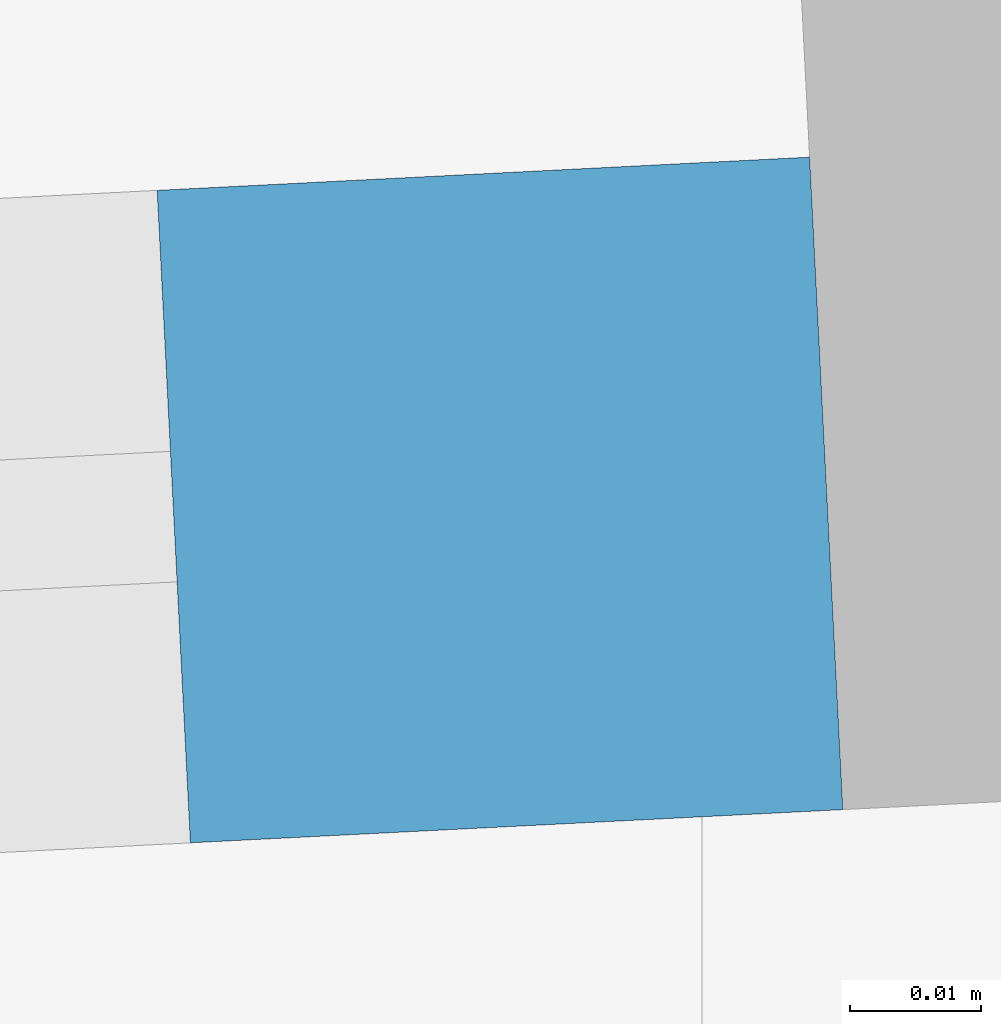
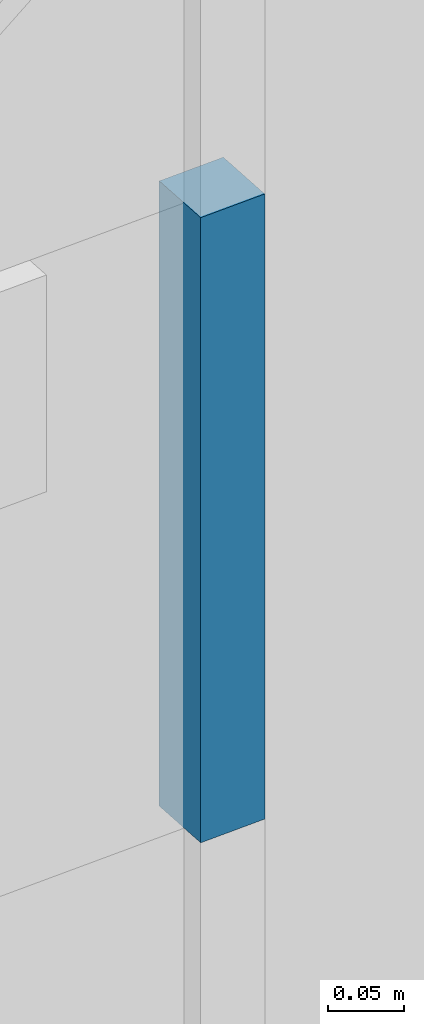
# One storey, part 6 of 43: 1 member, 1 element without a shape of its own.
"""IFC2X3 building model written with IfcOpenShell, lengths in metres."""

from ifc_helpers import new_model, entity, si_unit, converted_unit, derived_unit, direction, frame, origin, origin_2d_with_axis, place, context, subcontext, project, spatial, rectangle, extrude, source, transform, mapped, material, type_object, type_shapes, element, aggregate, save


model = new_model("IFC2X3")

# Units and contexts
model_context = context("Model", 3, precision=1e-05, world=origin(), true_north=direction((6.123233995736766e-17, 1.0)))
body_context = subcontext(model_context, "Body", "Model", "MODEL_VIEW")
ifc_project = project(units=[si_unit("LENGTHUNIT", "METRE"), si_unit("AREAUNIT", "SQUARE_METRE"), converted_unit("PLANEANGLEUNIT", "DEGREE", entity("IfcPlaneAngleMeasure", 0.017453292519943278), si_unit("PLANEANGLEUNIT", "RADIAN"), dimensions=[0, 0, 0, 0, 0, 0, 0]), derived_unit("THERMALTRANSMITTANCEUNIT", [(si_unit("MASSUNIT", "GRAM", prefix="KILO"), 1), (si_unit("THERMODYNAMICTEMPERATUREUNIT", "KELVIN"), -1), (si_unit("TIMEUNIT", "SECOND"), -3)])], contexts=[model_context])

# Site, building, storey
site_placement = place(None, frame((1253.6752467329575, 2072.143113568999, 91.49999999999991), z_axis=(0.0, 0.0, 1.0), x_axis=(0.7237211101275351, 0.6900925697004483, 0.0)))
site = spatial("IfcSite", under=ifc_project, at=site_placement, Name="Surface", CompositionType="ELEMENT")
building_placement = place(site_placement, origin())
building = spatial("IfcBuilding", under=site, at=building_placement, CompositionType="ELEMENT")
storey_placement = place(building_placement, frame((0.0, 0.0, -4.629999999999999)))
storey = spatial("IfcBuildingStorey", under=building, at=storey_placement, Name="rez de rue -1.10m", CompositionType="ELEMENT", Elevation=-4.629999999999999)

# Curtain wall, member
curtain_wall_type = type_object("IfcCurtainWallType", Name="Mur-rideau:Menuiserie Int", PredefinedType="NOTDEFINED")
curtain_wall_placement = place(storey_placement, frame((0.0, 0.0, 4.629999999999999)))
curtain_wall = element("IfcCurtainWall", 1, at=curtain_wall_placement, inside=storey, type_object=curtain_wall_type, Name="Mur-rideau:Menuiserie Int", ObjectType="Mur-rideau:Menuiserie Int")
ifc_material = material(Name="OMD_Bois Men Int")
member_type = type_object("IfcMemberType", Name="Meneau rectangulaire:50x50 Int", PredefinedType="MULLION", material=ifc_material)
shared_shape = source(origin(), body_context, "Body", "SweptSolid", [
    extrude(rectangle(XDim=0.05, YDim=0.05, at=origin_2d_with_axis()), frame((-0.025, 0.0, -0.5), z_axis=(0.0, 0.0, 1.0), x_axis=(-1.0, 0.0, 0.0)), (0.0, 0.0, 1.0), 0.5),
])
type_shapes(member_type, [shared_shape])
member_placement = place(curtain_wall_placement, frame((185.92429787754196, 3.2543116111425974, -3.529999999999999), z_axis=(0.0, 0.0, -1.0), x_axis=(0.7578888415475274, -0.6523837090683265, 0.0)))
member = element("IfcMember", 2, at=member_placement, type_object=member_type, material=ifc_material, Name="Meneau rectangulaire:50x50 Int", ObjectType="Meneau rectangulaire:50x50 Int", context=body_context, shape_type="MappedRepresentation", body=[
    mapped(shared_shape, transform((0.0, 0.0, 0.0), scale=1.0)),
])
aggregate(curtain_wall, [member])

save(model, "model.ifc")
